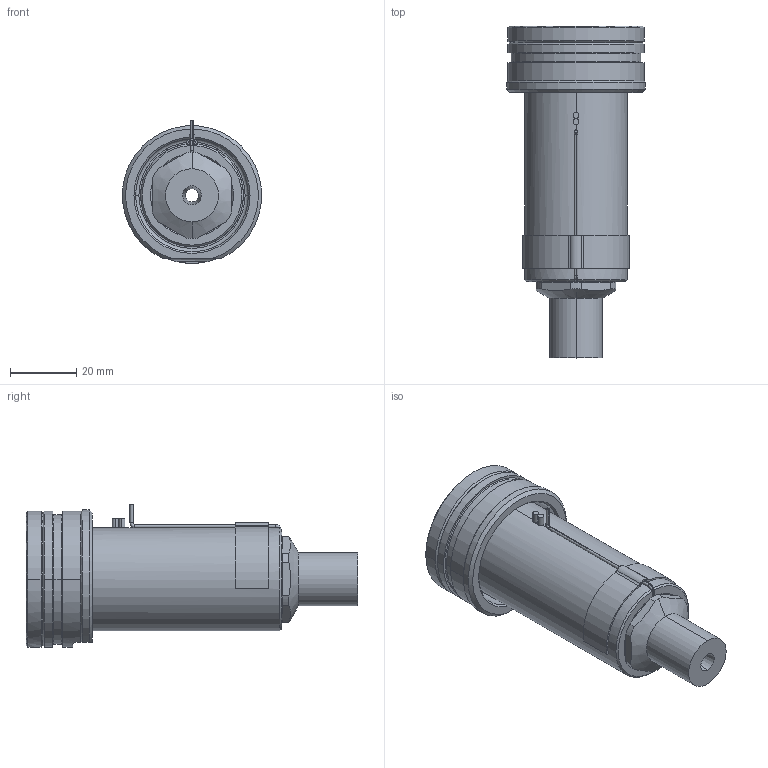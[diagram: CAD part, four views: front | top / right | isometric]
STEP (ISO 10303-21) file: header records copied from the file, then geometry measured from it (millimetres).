
FILE_DESCRIPTION((''),'2;1');
FILE_NAME('EO12_VG-FBE_STD_070_SW','2024-02-19T14:03:24',('sundharh'),(''),'CREO PARAMETRIC BY PTC INC, 2023154','CREO PARAMETRIC BY PTC INC, 2023154','');
FILE_SCHEMA(('CONFIG_CONTROL_DESIGN'));
Length unit declared in the file: millimetre
Products named in the file (1): EO12_VG-FBE_STD_070_SW
Bounding box: 41.85 x 100 x 43 mm (x, y, z)
Volume: 63166.2 mm3; surface area: 20450.2 mm2
Topology: 2 solids, 3 shells, 212 faces, 523 edges, 316 vertices
Faces by surface type: cylinder 73, plane 48, cone 43, torus 37, bspline 9, sphere 2
Entity records: 7099 total; most frequent: CARTESIAN_POINT 1956, DIRECTION 1152, ORIENTED_EDGE 1042, EDGE_CURVE 521, AXIS2_PLACEMENT_3D 487, VERTEX_POINT 316, CIRCLE 284, EDGE_LOOP 229
